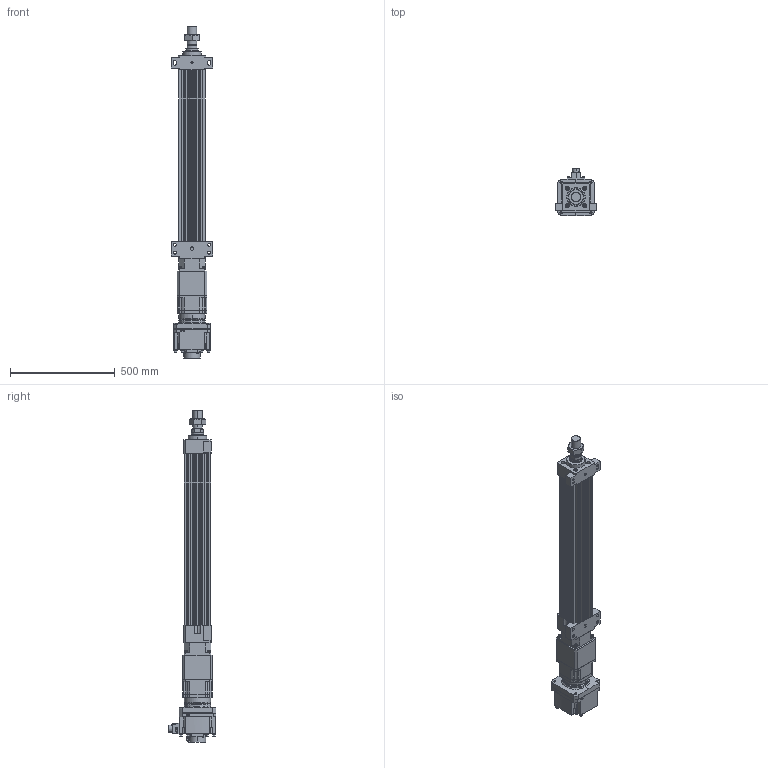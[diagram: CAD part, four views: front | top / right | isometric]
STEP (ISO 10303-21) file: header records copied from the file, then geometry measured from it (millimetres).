
FILE_DESCRIPTION (( 'STEP AP203' ), '1' );
FILE_NAME ('HES130FS(HS)-S600-W020G00-M-FFB.STEP', '2023-01-30T12:45:32', ( 'tms' ), ( '' ), 'SwSTEP 2.0', 'SolidWorks 2013', '' );
FILE_SCHEMA (( 'CONFIG_CONTROL_DESIGN' ));
Length unit declared in the file: millimetre
Products named in the file (9): HES130-S600-G142-FFB; AB142-003[HG-SR352]; HES130FS(HS)-S600-W020G00-M-FFB; P0403500801; P1301500001; HG-SR202; HES130 ROD M ST600; AB1421; M45X1.5P
Assembly tree (8 placements, depth 3):
  HES130FS(HS)-S600-W020G00-M-FFB
    HES130-S600-G142-FFB
    HES130 ROD M ST600
    AB142-003[HG-SR352]
      AB1421
      P1301500001
      P0403500801
    HG-SR202
    M45X1.5P
Bounding box: 200 x 228.85 x 1587.5 mm (x, y, z)
Volume: 14023910.9 mm3; surface area: 1834363.7 mm2
Topology: 4 solids, 22 shells, 1518 faces, 3922 edges, 2545 vertices
Faces by surface type: cylinder 676, plane 600, cone 160, bspline 76, torus 6
Entity records: 55270 total; most frequent: CARTESIAN_POINT 16778, DIRECTION 8032, ORIENTED_EDGE 7750, EDGE_CURVE 3897, AXIS2_PLACEMENT_3D 3016, VERTEX_POINT 2545, VECTOR 2000, LINE 2000
